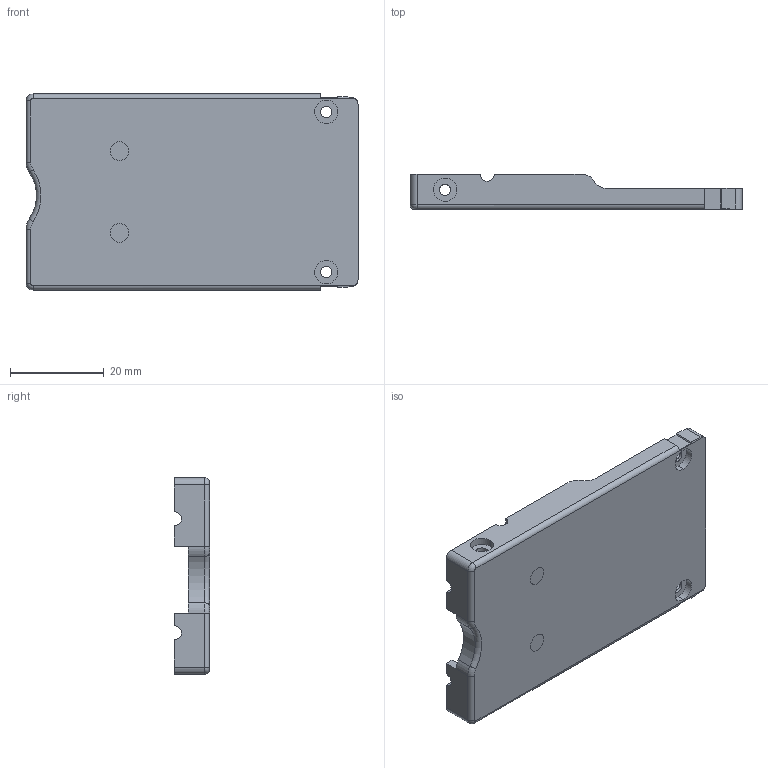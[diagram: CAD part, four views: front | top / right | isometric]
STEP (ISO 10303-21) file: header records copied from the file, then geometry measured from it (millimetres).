
FILE_DESCRIPTION (( 'STEP AP214' ), '1' );
FILE_NAME ('V8.2_Kenny_Hawktec_Top.STEP', '2026-05-26T01:45:37', ( '' ), ( '' ), 'SwSTEP 2.0', 'SolidWorks 2025', '' );
FILE_SCHEMA (( 'AUTOMOTIVE_DESIGN' ));
Length unit declared in the file: millimetre
Products named in the file (1): V8.2_Kenny_Hawktec_Top
Bounding box: 71 x 7.5 x 41.95 mm (x, y, z)
Volume: 7000.3 mm3; surface area: 8398.4 mm2
Topology: 3 solids, 3 shells, 158 faces, 412 edges, 262 vertices
Faces by surface type: plane 83, cylinder 61, torus 14
Entity records: 4891 total; most frequent: DIRECTION 866, CARTESIAN_POINT 859, ORIENTED_EDGE 820, EDGE_CURVE 410, AXIS2_PLACEMENT_3D 305, VERTEX_POINT 262, VECTOR 256, LINE 256
